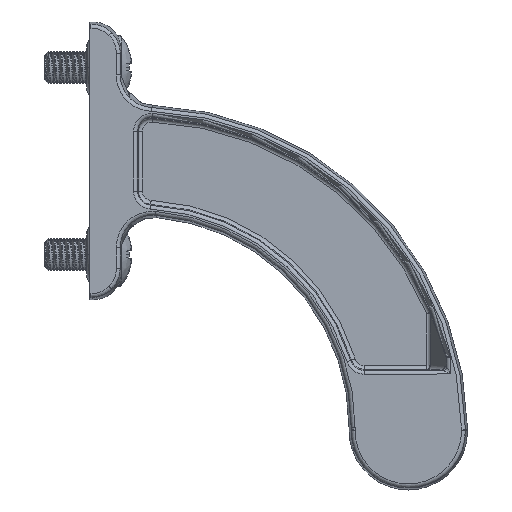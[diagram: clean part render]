
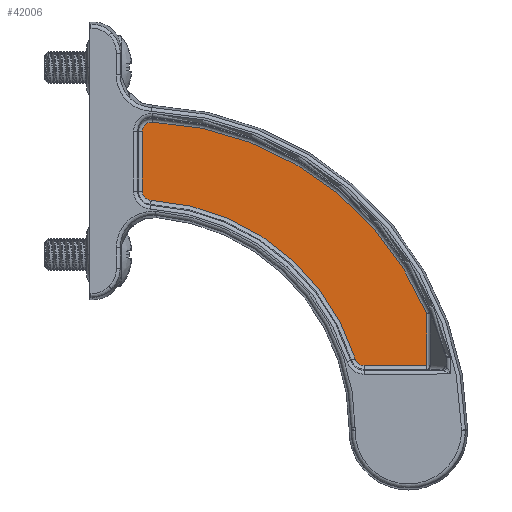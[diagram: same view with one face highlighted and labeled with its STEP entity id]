
A CAD part, left-side view. The second image highlights one B-rep face of the part: STEP entity #42006.
In plain terms, the highlighted planar face has unit normal (-1, 0, 0).
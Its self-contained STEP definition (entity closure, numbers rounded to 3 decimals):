
#118 = CIRCLE ( 'NONE', #26848, 61.042 ) ;
#1568 = CARTESIAN_POINT ( 'NONE',  ( -184.201, -204.696, -18.448 ) ) ;
#2009 = CARTESIAN_POINT ( 'NONE',  ( -184.201, -205.432, 29.036 ) ) ;
#2681 = CARTESIAN_POINT ( 'NONE',  ( -184.201, -207.137, 27.235 ) ) ;
#2861 = EDGE_CURVE ( 'Defeatured_0_429+Defeatured_0_422+Defeatured_0_421+Defeatured_0_423', #11049, #42216, #23957, .T. ) ;
#2918 = DIRECTION ( 'NONE',  ( 0., 1., 0. ) ) ;
#5658 = EDGE_CURVE ( 'Defeatured_0_429+Defeatured_0_435+Defeatured_0_428+Defeatured_0_430', #37725, #42435, #20874, .T. ) ;
#5733 = CARTESIAN_POINT ( 'NONE',  ( -184.201, -261.044, -5.008 ) ) ;
#5881 = ORIENTED_EDGE ( 'NONE', *, *, #5658, .T. ) ;
#6374 = AXIS2_PLACEMENT_3D ( 'NONE', #16480, #42406, #27467 ) ;
#6705 = EDGE_LOOP ( 'NONE', ( #35082, #38824, #12188, #35134, #19949, #32090, #31350, #5881 ) ) ;
#6961 = AXIS2_PLACEMENT_3D ( 'NONE', #21104, #20869, #2918 ) ;
#7751 = VERTEX_POINT ( 'NONE', #5733 ) ;
#9213 = DIRECTION ( 'NONE',  ( -1., 0., 0. ) ) ;
#10357 = CARTESIAN_POINT ( 'NONE',  ( -184.201, -207.236, 29.036 ) ) ;
#11049 = VERTEX_POINT ( 'NONE', #21919 ) ;
#11157 = DIRECTION ( 'NONE',  ( 0., -1., 0.002 ) ) ;
#11944 = CARTESIAN_POINT ( 'NONE',  ( -184.201, -261.023, 5.924 ) ) ;
#12188 = ORIENTED_EDGE ( 'NONE', *, *, #44068, .T. ) ;
#12403 = VERTEX_POINT ( 'NONE', #34180 ) ;
#13265 = AXIS2_PLACEMENT_3D ( 'NONE', #46349, #32415, #47089 ) ;
#13948 = VECTOR ( 'NONE', #45054, 1000. ) ;
#14030 = CARTESIAN_POINT ( 'NONE',  ( -184.201, -261.484, -5.007 ) ) ;
#14137 = FACE_OUTER_BOUND ( 'NONE', #6705, .T. ) ;
#14168 = CARTESIAN_POINT ( 'NONE',  ( -184.201, -248.779, -5.032 ) ) ;
#14396 = VECTOR ( 'NONE', #11157, 1000. ) ;
#14837 = DIRECTION ( 'NONE',  ( -1., 0., 0. ) ) ;
#15869 = VERTEX_POINT ( 'NONE', #14168 ) ;
#16190 = DIRECTION ( 'NONE',  ( -1., 0., 0. ) ) ;
#16480 = CARTESIAN_POINT ( 'NONE',  ( -184.201, -204.696, -17.107 ) ) ;
#18816 = EDGE_CURVE ( 'Defeatured_0_429+Defeatured_0_413+Defeatured_0_430+Defeatured_0_420', #15869, #7751, #47389, .T. ) ;
#19949 = ORIENTED_EDGE ( 'NONE', *, *, #2861, .T. ) ;
#20869 = DIRECTION ( 'NONE',  ( -1., 0., 0. ) ) ;
#20874 = CIRCLE ( 'NONE', #6374, 44.409 ) ;
#21104 = CARTESIAN_POINT ( 'NONE',  ( -184.201, -204.696, -17.107 ) ) ;
#21919 = CARTESIAN_POINT ( 'NONE',  ( -184.201, -207.313, 42.538 ) ) ;
#22911 = EDGE_CURVE ( 'Defeatured_0_429+Defeatured_0_430+Defeatured_0_435+Defeatured_0_413', #42435, #15869, #24560, .T. ) ;
#23957 = CIRCLE ( 'NONE', #13265, 1.804 ) ;
#24560 = CIRCLE ( 'NONE', #31483, 1.804 ) ;
#24622 = EDGE_CURVE ( 'Defeatured_0_429+Defeatured_0_421+Defeatured_0_420+Defeatured_0_422', #12403, #11049, #118, .T. ) ;
#26848 = AXIS2_PLACEMENT_3D ( 'NONE', #1568, #16190, #27663 ) ;
#26881 = VERTEX_POINT ( 'NONE', #2009 ) ;
#27467 = DIRECTION ( 'NONE',  ( 0., -1., 0. ) ) ;
#27663 = DIRECTION ( 'NONE',  ( 0., -1., 0. ) ) ;
#27807 = LINE ( 'NONE', #39369, #34116 ) ;
#29452 = DIRECTION ( 'NONE',  ( 0., -1., 0. ) ) ;
#30158 = CARTESIAN_POINT ( 'NONE',  ( -184.201, -205.432, 40.735 ) ) ;
#30384 = LINE ( 'NONE', #11944, #13948 ) ;
#31350 = ORIENTED_EDGE ( 'NONE', *, *, #32743, .T. ) ;
#31456 = CIRCLE ( 'NONE', #42961, 1.804 ) ;
#31483 = AXIS2_PLACEMENT_3D ( 'NONE', #40266, #14837, #29452 ) ;
#32090 = ORIENTED_EDGE ( 'NONE', *, *, #37787, .T. ) ;
#32415 = DIRECTION ( 'NONE',  ( -1., 0., 0. ) ) ;
#32743 = EDGE_CURVE ( 'Defeatured_0_429+Defeatured_0_428+Defeatured_0_423+Defeatured_0_435', #26881, #37725, #31456, .T. ) ;
#34116 = VECTOR ( 'NONE', #42482, 1000. ) ;
#34180 = CARTESIAN_POINT ( 'NONE',  ( -184.201, -261.025, 5.072 ) ) ;
#35082 = ORIENTED_EDGE ( 'NONE', *, *, #22911, .T. ) ;
#35134 = ORIENTED_EDGE ( 'NONE', *, *, #24622, .T. ) ;
#36233 = DIRECTION ( 'NONE',  ( 0., -1., 0. ) ) ;
#37725 = VERTEX_POINT ( 'NONE', #2681 ) ;
#37787 = EDGE_CURVE ( 'Defeatured_0_429+Defeatured_0_423+Defeatured_0_422+Defeatured_0_428', #42216, #26881, #27807, .T. ) ;
#38824 = ORIENTED_EDGE ( 'NONE', *, *, #18816, .T. ) ;
#39369 = CARTESIAN_POINT ( 'NONE',  ( -184.201, -205.432, 29.036 ) ) ;
#39714 = CARTESIAN_POINT ( 'NONE',  ( -184.201, -247.054, -3.769 ) ) ;
#40266 = CARTESIAN_POINT ( 'NONE',  ( -184.201, -248.775, -3.227 ) ) ;
#42006 = ADVANCED_FACE ( 'Defeatured_0_429', ( #14137 ), #46563, .T. ) ;
#42216 = VERTEX_POINT ( 'NONE', #30158 ) ;
#42406 = DIRECTION ( 'NONE',  ( 1., 0., 0. ) ) ;
#42435 = VERTEX_POINT ( 'NONE', #39714 ) ;
#42482 = DIRECTION ( 'NONE',  ( 0., 0., -1. ) ) ;
#42961 = AXIS2_PLACEMENT_3D ( 'NONE', #10357, #9213, #36233 ) ;
#44068 = EDGE_CURVE ( 'Defeatured_0_429+Defeatured_0_420+Defeatured_0_413+Defeatured_0_421', #7751, #12403, #30384, .T. ) ;
#45054 = DIRECTION ( 'NONE',  ( 0., 0.002, 1. ) ) ;
#46349 = CARTESIAN_POINT ( 'NONE',  ( -184.201, -207.236, 40.735 ) ) ;
#46563 = PLANE ( 'NONE',  #6961 ) ;
#47089 = DIRECTION ( 'NONE',  ( 0., -1., 0. ) ) ;
#47389 = LINE ( 'NONE', #14030, #14396 ) ;
